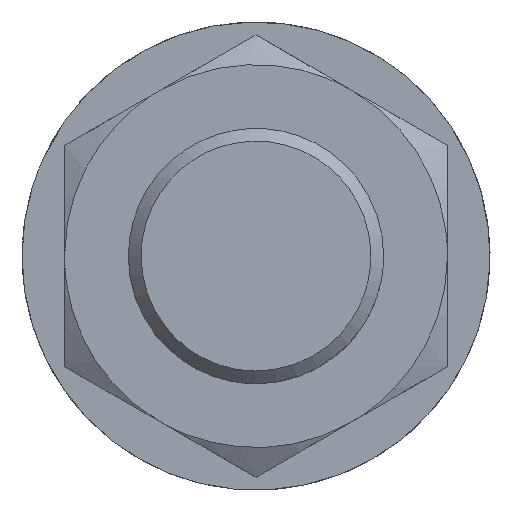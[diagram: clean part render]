
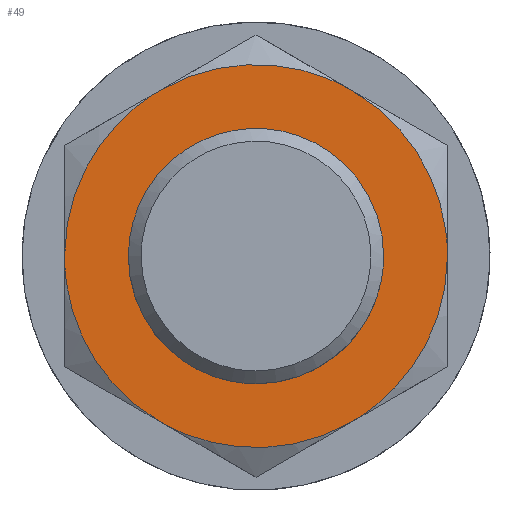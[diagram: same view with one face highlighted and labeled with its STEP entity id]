
A CAD part, left-side view. The second image highlights one B-rep face of the part: STEP entity #49.
In plain terms, the highlighted planar face has unit normal (-1, 0, 0).
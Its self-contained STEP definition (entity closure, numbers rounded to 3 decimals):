
#40=FACE_BOUND('',#138,.T.);
#49=ADVANCED_FACE('',(#92,#40),#658,.T.);
#92=FACE_OUTER_BOUND('',#137,.T.);
#137=EDGE_LOOP('',(#202,#203,#204,#205,#206,#207));
#138=EDGE_LOOP('',(#208,#209));
#202=ORIENTED_EDGE('',*,*,#403,.F.);
#203=ORIENTED_EDGE('',*,*,#405,.F.);
#204=ORIENTED_EDGE('',*,*,#406,.F.);
#205=ORIENTED_EDGE('',*,*,#404,.F.);
#206=ORIENTED_EDGE('',*,*,#402,.F.);
#207=ORIENTED_EDGE('',*,*,#401,.F.);
#208=ORIENTED_EDGE('',*,*,#391,.F.);
#209=ORIENTED_EDGE('',*,*,#389,.F.);
#389=EDGE_CURVE('',#604,#594,#515,.T.);
#391=EDGE_CURVE('',#594,#604,#516,.T.);
#401=EDGE_CURVE('',#598,#599,#524,.T.);
#402=EDGE_CURVE('',#599,#603,#525,.T.);
#403=EDGE_CURVE('',#600,#598,#526,.T.);
#404=EDGE_CURVE('',#603,#602,#527,.T.);
#405=EDGE_CURVE('',#601,#600,#528,.T.);
#406=EDGE_CURVE('',#602,#601,#529,.T.);
#515=(
BOUNDED_CURVE()
B_SPLINE_CURVE(2,(#1161,#1162,#1163,#1164,#1165),.UNSPECIFIED.,.F.,.F.)
B_SPLINE_CURVE_WITH_KNOTS((3,2,3),(94.248,141.372,188.496),
 .UNSPECIFIED.)
CURVE()
GEOMETRIC_REPRESENTATION_ITEM()
RATIONAL_B_SPLINE_CURVE((1.,0.707,1.,0.707,1.))
REPRESENTATION_ITEM('')
);
#516=(
BOUNDED_CURVE()
B_SPLINE_CURVE(2,(#1168,#1169,#1170,#1171,#1172),.UNSPECIFIED.,.F.,.F.)
B_SPLINE_CURVE_WITH_KNOTS((3,2,3),(0.,47.124,94.248),
 .UNSPECIFIED.)
CURVE()
GEOMETRIC_REPRESENTATION_ITEM()
RATIONAL_B_SPLINE_CURVE((1.,0.707,1.,0.707,1.))
REPRESENTATION_ITEM('')
);
#524=(
BOUNDED_CURVE()
B_SPLINE_CURVE(2,(#1210,#1211,#1212),.UNSPECIFIED.,.F.,.F.)
B_SPLINE_CURVE_WITH_KNOTS((3,3),(0.,47.124),.UNSPECIFIED.)
CURVE()
GEOMETRIC_REPRESENTATION_ITEM()
RATIONAL_B_SPLINE_CURVE((1.,0.866,1.))
REPRESENTATION_ITEM('')
);
#525=(
BOUNDED_CURVE()
B_SPLINE_CURVE(2,(#1213,#1214,#1215),.UNSPECIFIED.,.F.,.F.)
B_SPLINE_CURVE_WITH_KNOTS((3,3),(0.,47.124),.UNSPECIFIED.)
CURVE()
GEOMETRIC_REPRESENTATION_ITEM()
RATIONAL_B_SPLINE_CURVE((1.,0.866,1.))
REPRESENTATION_ITEM('')
);
#526=(
BOUNDED_CURVE()
B_SPLINE_CURVE(2,(#1216,#1217,#1218),.UNSPECIFIED.,.F.,.F.)
B_SPLINE_CURVE_WITH_KNOTS((3,3),(0.,47.124),.UNSPECIFIED.)
CURVE()
GEOMETRIC_REPRESENTATION_ITEM()
RATIONAL_B_SPLINE_CURVE((1.,0.866,1.))
REPRESENTATION_ITEM('')
);
#527=(
BOUNDED_CURVE()
B_SPLINE_CURVE(2,(#1219,#1220,#1221),.UNSPECIFIED.,.F.,.F.)
B_SPLINE_CURVE_WITH_KNOTS((3,3),(0.,47.124),.UNSPECIFIED.)
CURVE()
GEOMETRIC_REPRESENTATION_ITEM()
RATIONAL_B_SPLINE_CURVE((1.,0.866,1.))
REPRESENTATION_ITEM('')
);
#528=(
BOUNDED_CURVE()
B_SPLINE_CURVE(2,(#1222,#1223,#1224),.UNSPECIFIED.,.F.,.F.)
B_SPLINE_CURVE_WITH_KNOTS((3,3),(0.,47.124),.UNSPECIFIED.)
CURVE()
GEOMETRIC_REPRESENTATION_ITEM()
RATIONAL_B_SPLINE_CURVE((1.,0.866,1.))
REPRESENTATION_ITEM('')
);
#529=(
BOUNDED_CURVE()
B_SPLINE_CURVE(2,(#1225,#1226,#1227),.UNSPECIFIED.,.F.,.F.)
B_SPLINE_CURVE_WITH_KNOTS((3,3),(0.,47.124),.UNSPECIFIED.)
CURVE()
GEOMETRIC_REPRESENTATION_ITEM()
RATIONAL_B_SPLINE_CURVE((1.,0.866,1.))
REPRESENTATION_ITEM('')
);
#594=VERTEX_POINT('',#1129);
#598=VERTEX_POINT('',#1133);
#599=VERTEX_POINT('',#1134);
#600=VERTEX_POINT('',#1135);
#601=VERTEX_POINT('',#1136);
#602=VERTEX_POINT('',#1137);
#603=VERTEX_POINT('',#1138);
#604=VERTEX_POINT('',#1139);
#658=PLANE('',#772);
#772=AXIS2_PLACEMENT_3D('',#886,#798,$);
#798=DIRECTION('',(-1.,0.,0.));
#886=CARTESIAN_POINT('',(79.667,-54.12,-62.474));
#1129=CARTESIAN_POINT('',(79.667,30.,0.));
#1133=CARTESIAN_POINT('',(79.667,-22.5,-38.971));
#1134=CARTESIAN_POINT('',(79.667,22.5,-38.971));
#1135=CARTESIAN_POINT('',(79.667,-45.,0.));
#1136=CARTESIAN_POINT('',(79.667,-22.5,38.971));
#1137=CARTESIAN_POINT('',(79.667,22.5,38.971));
#1138=CARTESIAN_POINT('',(79.667,45.,0.));
#1139=CARTESIAN_POINT('',(79.667,-30.,0.));
#1161=CARTESIAN_POINT('',(79.667,-30.,0.));
#1162=CARTESIAN_POINT('',(79.667,-30.,30.));
#1163=CARTESIAN_POINT('',(79.667,0.,30.));
#1164=CARTESIAN_POINT('',(79.667,30.,30.));
#1165=CARTESIAN_POINT('',(79.667,30.,0.));
#1168=CARTESIAN_POINT('',(79.667,30.,0.));
#1169=CARTESIAN_POINT('',(79.667,30.,-30.));
#1170=CARTESIAN_POINT('',(79.667,0.,-30.));
#1171=CARTESIAN_POINT('',(79.667,-30.,-30.));
#1172=CARTESIAN_POINT('',(79.667,-30.,0.));
#1210=CARTESIAN_POINT('',(79.667,-22.5,-38.971));
#1211=CARTESIAN_POINT('',(79.667,0.,-51.962));
#1212=CARTESIAN_POINT('',(79.667,22.5,-38.971));
#1213=CARTESIAN_POINT('',(79.667,22.5,-38.971));
#1214=CARTESIAN_POINT('',(79.667,45.,-25.981));
#1215=CARTESIAN_POINT('',(79.667,45.,0.));
#1216=CARTESIAN_POINT('',(79.667,-45.,0.));
#1217=CARTESIAN_POINT('',(79.667,-45.,-25.981));
#1218=CARTESIAN_POINT('',(79.667,-22.5,-38.971));
#1219=CARTESIAN_POINT('',(79.667,45.,0.));
#1220=CARTESIAN_POINT('',(79.667,45.,25.981));
#1221=CARTESIAN_POINT('',(79.667,22.5,38.971));
#1222=CARTESIAN_POINT('',(79.667,-22.5,38.971));
#1223=CARTESIAN_POINT('',(79.667,-45.,25.981));
#1224=CARTESIAN_POINT('',(79.667,-45.,0.));
#1225=CARTESIAN_POINT('',(79.667,22.5,38.971));
#1226=CARTESIAN_POINT('',(79.667,0.,51.962));
#1227=CARTESIAN_POINT('',(79.667,-22.5,38.971));
